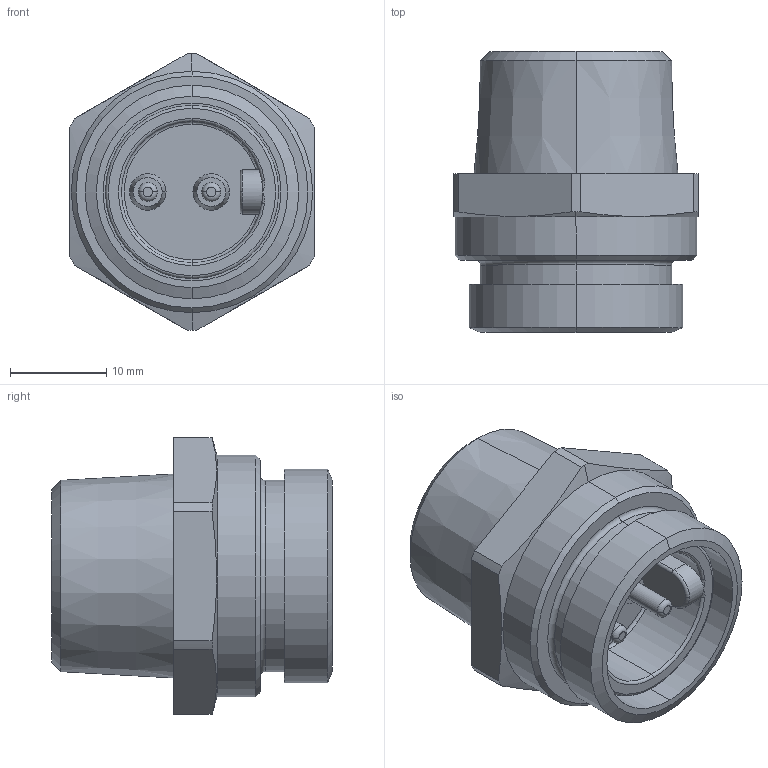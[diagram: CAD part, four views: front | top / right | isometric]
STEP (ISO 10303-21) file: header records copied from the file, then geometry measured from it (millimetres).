
FILE_DESCRIPTION (( 'STEP AP203' ), '1' );
FILE_NAME ('RSF_20-NPT.step', '2015-06-01T15:41:06', ( 'Turck User' ), ( '' ), 'SwSTEP 2.0', 'SolidWorks 2014', '' );
FILE_SCHEMA (( 'CONFIG_CONTROL_DESIGN' ));
Length unit declared in the file: millimetre
Products named in the file (2): RSF_20-NPT
Bounding box: 25.4 x 29.2 x 28.75 mm (x, y, z)
Volume: 9728.7 mm3; surface area: 5062.7 mm2
Topology: 1 solids, 1 shells, 84 faces, 188 edges, 114 vertices
Faces by surface type: cylinder 31, plane 21, torus 16, cone 14, bspline 2
Entity records: 2557 total; most frequent: CARTESIAN_POINT 492, DIRECTION 448, ORIENTED_EDGE 372, AXIS2_PLACEMENT_3D 192, EDGE_CURVE 186, VERTEX_POINT 114, CIRCLE 108, EDGE_LOOP 94
